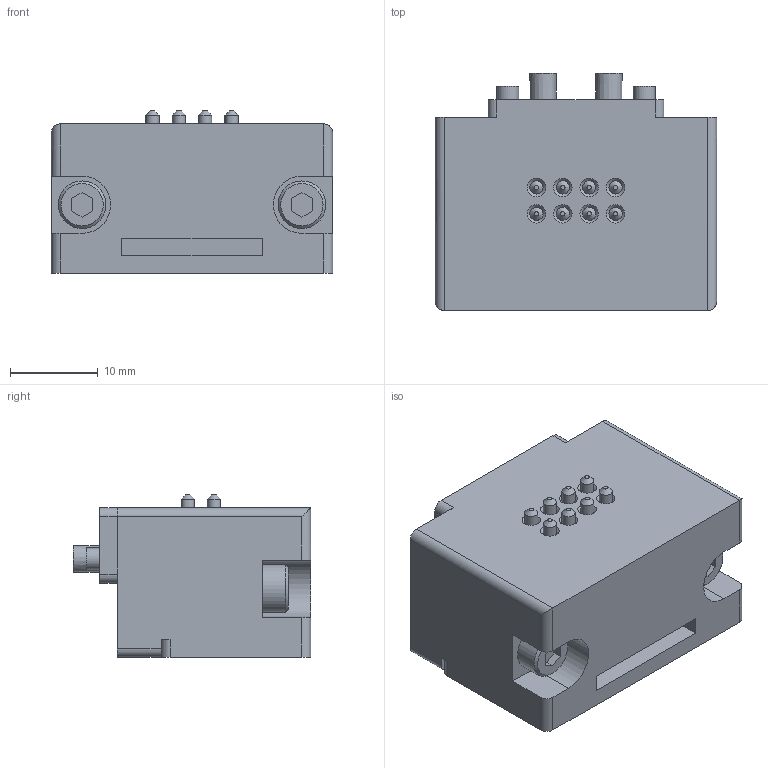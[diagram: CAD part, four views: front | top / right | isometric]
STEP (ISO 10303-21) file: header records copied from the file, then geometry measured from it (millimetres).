
FILE_DESCRIPTION(('STEP AP214'),'1');
FILE_NAME('KHB-1HS-D38_ver1.stp','2026-04-24T00:06:49',(' '),(' '),'Spatial InterOp 3D',' ',' ');
FILE_SCHEMA(('AUTOMOTIVE_DESIGN { 1 0 10303 214 1 1 1 1 }'));
Length unit declared in the file: millimetre
Products named in the file (1): KHB-1HS-D38_ver1
Bounding box: 32 x 27 x 18.5 mm (x, y, z)
Volume: 11372.9 mm3; surface area: 5364.2 mm2
Topology: 1 solids, 11 shells, 285 faces, 662 edges, 426 vertices
Faces by surface type: plane 195, cylinder 60, cone 30
Full cylindrical faces by diameter (mm): 1.5 x8, 2.15 x2, 2.5 x8, 3 x4, 3.5 x4, 5.41 x2
Entity records: 9962 total; most frequent: CARTESIAN_POINT 1358, DIRECTION 1312, ORIENTED_EDGE 1180, EDGE_CURVE 590, AXIS2_PLACEMENT_3D 438, LINE 436, VECTOR 436, VERTEX_POINT 412
